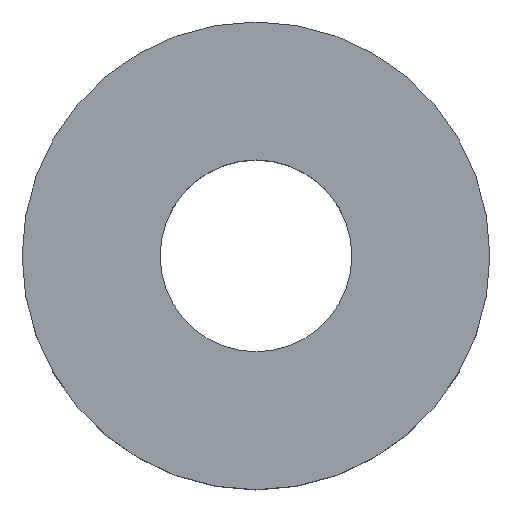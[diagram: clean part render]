
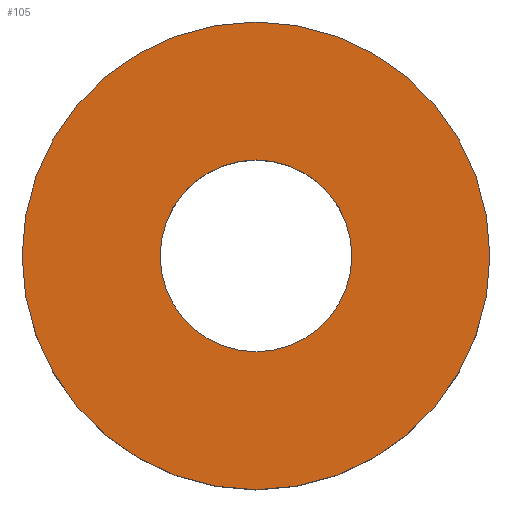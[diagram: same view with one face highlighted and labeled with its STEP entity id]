
A CAD part, top view. The second image highlights one B-rep face of the part: STEP entity #105.
In plain terms, the highlighted planar face has unit normal (0, 0, 1).
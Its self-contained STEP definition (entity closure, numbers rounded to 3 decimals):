
#21 = EDGE_CURVE('',#22,#22,#24,.T.);
#22 = VERTEX_POINT('',#23);
#23 = CARTESIAN_POINT('',(20.,0.,-20.));
#24 = SURFACE_CURVE('',#25,(#30,#42),.PCURVE_S1.);
#25 = CIRCLE('',#26,20.);
#26 = AXIS2_PLACEMENT_3D('',#27,#28,#29);
#27 = CARTESIAN_POINT('',(0.,0.,-20.));
#28 = DIRECTION('',(0.,0.,1.));
#29 = DIRECTION('',(1.,0.,-0.));
#30 = PCURVE('',#31,#36);
#31 = CYLINDRICAL_SURFACE('',#32,20.);
#32 = AXIS2_PLACEMENT_3D('',#33,#34,#35);
#33 = CARTESIAN_POINT('',(0.,0.,-32.));
#34 = DIRECTION('',(0.,0.,1.));
#35 = DIRECTION('',(1.,0.,-0.));
#36 = DEFINITIONAL_REPRESENTATION('',(#37),#41);
#37 = LINE('',#38,#39);
#38 = CARTESIAN_POINT('',(0.,12.));
#39 = VECTOR('',#40,1.);
#40 = DIRECTION('',(1.,0.));
#41 = ( GEOMETRIC_REPRESENTATION_CONTEXT(2) 
PARAMETRIC_REPRESENTATION_CONTEXT() REPRESENTATION_CONTEXT('2D SPACE',''
  ) );
#42 = PCURVE('',#43,#48);
#43 = PLANE('',#44);
#44 = AXIS2_PLACEMENT_3D('',#45,#46,#47);
#45 = CARTESIAN_POINT('',(0.,0.,-20.));
#46 = DIRECTION('',(0.,0.,1.));
#47 = DIRECTION('',(1.,0.,-0.));
#48 = DEFINITIONAL_REPRESENTATION('',(#49),#53);
#49 = CIRCLE('',#50,20.);
#50 = AXIS2_PLACEMENT_2D('',#51,#52);
#51 = CARTESIAN_POINT('',(0.,0.));
#52 = DIRECTION('',(1.,0.));
#53 = ( GEOMETRIC_REPRESENTATION_CONTEXT(2) 
PARAMETRIC_REPRESENTATION_CONTEXT() REPRESENTATION_CONTEXT('2D SPACE',''
  ) );
#105 = ADVANCED_FACE('',(#106,#109),#43,.T.);
#106 = FACE_BOUND('',#107,.T.);
#107 = EDGE_LOOP('',(#108));
#108 = ORIENTED_EDGE('',*,*,#21,.T.);
#109 = FACE_BOUND('',#110,.T.);
#110 = EDGE_LOOP('',(#111));
#111 = ORIENTED_EDGE('',*,*,#112,.F.);
#112 = EDGE_CURVE('',#113,#113,#115,.T.);
#113 = VERTEX_POINT('',#114);
#114 = CARTESIAN_POINT('',(8.2,0.,-20.));
#115 = SURFACE_CURVE('',#116,(#121,#128),.PCURVE_S1.);
#116 = CIRCLE('',#117,8.2);
#117 = AXIS2_PLACEMENT_3D('',#118,#119,#120);
#118 = CARTESIAN_POINT('',(0.,0.,-20.));
#119 = DIRECTION('',(0.,0.,1.));
#120 = DIRECTION('',(1.,0.,-0.));
#121 = PCURVE('',#43,#122);
#122 = DEFINITIONAL_REPRESENTATION('',(#123),#127);
#123 = CIRCLE('',#124,8.2);
#124 = AXIS2_PLACEMENT_2D('',#125,#126);
#125 = CARTESIAN_POINT('',(0.,0.));
#126 = DIRECTION('',(1.,0.));
#127 = ( GEOMETRIC_REPRESENTATION_CONTEXT(2) 
PARAMETRIC_REPRESENTATION_CONTEXT() REPRESENTATION_CONTEXT('2D SPACE',''
  ) );
#128 = PCURVE('',#129,#134);
#129 = CYLINDRICAL_SURFACE('',#130,8.2);
#130 = AXIS2_PLACEMENT_3D('',#131,#132,#133);
#131 = CARTESIAN_POINT('',(0.,0.,-32.));
#132 = DIRECTION('',(0.,0.,1.));
#133 = DIRECTION('',(1.,0.,-0.));
#134 = DEFINITIONAL_REPRESENTATION('',(#135),#139);
#135 = LINE('',#136,#137);
#136 = CARTESIAN_POINT('',(0.,12.));
#137 = VECTOR('',#138,1.);
#138 = DIRECTION('',(1.,0.));
#139 = ( GEOMETRIC_REPRESENTATION_CONTEXT(2) 
PARAMETRIC_REPRESENTATION_CONTEXT() REPRESENTATION_CONTEXT('2D SPACE',''
  ) );
